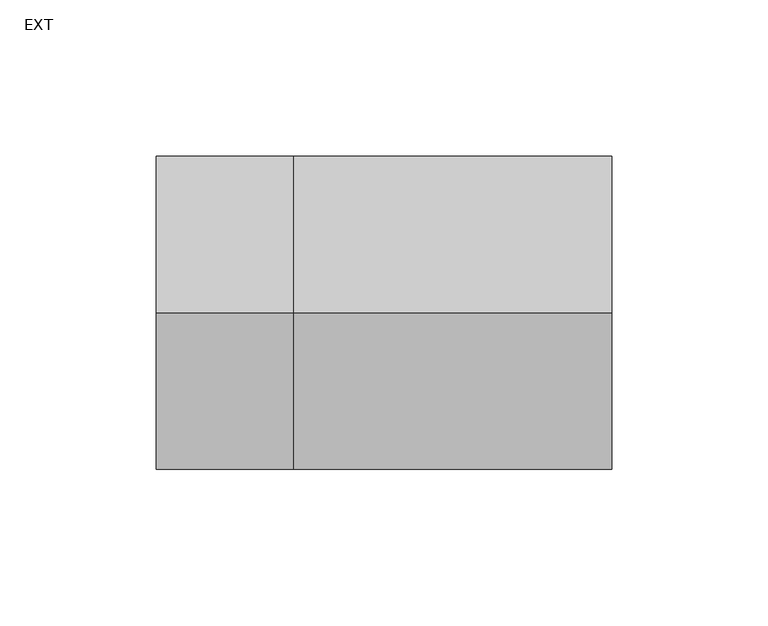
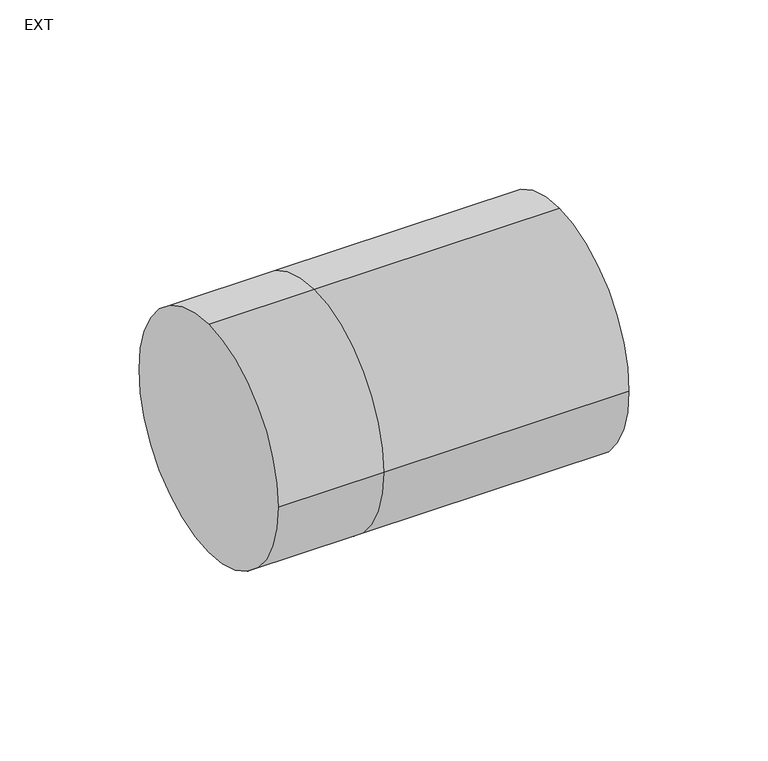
"""IFC4 building model written with IfcOpenShell, lengths in millimetres: duct fitting geometry, M_Toma de derivación redonda : EXT."""

from ifc_helpers import new_model, si_unit, frame, origin, place, context, project, spatial, circle_curve, source, transform, mapped, element, save
from ifc_brep_helpers import plane_surface, cylinder_surface, advanced_brep


def ext_110b8343(model_context):
    return source(origin(), model_context, "Body", "AdvancedBrep", [
        advanced_brep(
        [(101.6, 0.0, 50.0), (101.6, -50.0, 0.0), (101.6, 0.0, -50.0), (101.6, 50.0, 0.0), (0.0, 50.0, 0.0), (0.0, 0.0, 50.0), (0.0, 0.0, -50.0), (0.0, -50.0, 0.0), (-43.904, 0.0, 50.0), (-43.904, 50.0, 0.0), (-43.904, 0.0, -50.0), (-43.904, -50.0, 0.0)],
        [
            (0, 1, circle_curve(frame((101.6, 0.0, 0.0), z_axis=(1.0, 0.0, 0.0), x_axis=(0.0, 1.0, 0.0)), 50.0)),
            (1, 2, circle_curve(frame((101.6, 0.0, 0.0), z_axis=(1.0, 0.0, 0.0), x_axis=(0.0, 1.0, 0.0)), 50.0)),
            (2, 3, circle_curve(frame((101.6, 0.0, 0.0), z_axis=(1.0, 0.0, 0.0), x_axis=(0.0, 1.0, 0.0)), 50.0)),
            (3, 0, circle_curve(frame((101.6, 0.0, 0.0), z_axis=(1.0, 0.0, 0.0), x_axis=(0.0, 1.0, 0.0)), 50.0)),
            (3, 4),
            (4, 5, circle_curve(frame((0.0, 0.0, 0.0), z_axis=(1.0, 0.0, 0.0), x_axis=(0.0, 1.0, 0.0)), 50.0)),
            (5, 0),
            (2, 6),
            (6, 4, circle_curve(frame((0.0, 0.0, 0.0), z_axis=(1.0, 0.0, 0.0), x_axis=(0.0, 1.0, 0.0)), 50.0)),
            (1, 7),
            (7, 6, circle_curve(frame((0.0, 0.0, 0.0), z_axis=(1.0, 0.0, 0.0), x_axis=(0.0, 1.0, 0.0)), 50.0)),
            (5, 7, circle_curve(frame((0.0, 0.0, 0.0), z_axis=(1.0, 0.0, 0.0), x_axis=(0.0, 1.0, 0.0)), 50.0)),
            (8, 9, circle_curve(frame((-43.904, 0.0, 0.0), z_axis=(-1.0, 0.0, 0.0), x_axis=(0.0, 1.0, 0.0)), 50.0)),
            (9, 10, circle_curve(frame((-43.904, 0.0, 0.0), z_axis=(-1.0, 0.0, 0.0), x_axis=(0.0, 1.0, 0.0)), 50.0)),
            (10, 11, circle_curve(frame((-43.904, 0.0, 0.0), z_axis=(-1.0, 0.0, 0.0), x_axis=(0.0, 1.0, 0.0)), 50.0)),
            (11, 8, circle_curve(frame((-43.904, 0.0, 0.0), z_axis=(-1.0, 0.0, 0.0), x_axis=(0.0, 1.0, 0.0)), 50.0)),
            (8, 5),
            (4, 9),
            (6, 10),
            (7, 11),
        ],
        [
            plane_surface(frame((101.6, 0.0, 0.0), z_axis=(1.0, 0.0, 0.0), x_axis=(0.0, 0.0, 1.0))),
            cylinder_surface(frame((0.0, 0.0, 0.0), z_axis=(-1.0, 0.0, 0.0), x_axis=(0.0, 1.0, 0.0)), 50.0),
            plane_surface(frame((-43.904, 0.0, 0.0), z_axis=(-1.0, 0.0, 0.0), x_axis=(0.0, 0.0, 1.0))),
            cylinder_surface(frame((-43.904, 0.0, 0.0), z_axis=(-1.0, 0.0, 0.0), x_axis=(0.0, 1.0, 0.0)), 50.0),
        ],
        [
            (0, [[1, 2, 3, 4]]),
            (1, [[-4, 5, 6, 7]]),
            (1, [[-3, 8, 9, -5]]),
            (1, [[-2, 10, 11, -8]]),
            (1, [[-1, -7, 12, -10]]),
            (2, [[13, 14, 15, 16]]),
            (3, [[-13, 17, -6, 18]]),
            (3, [[-14, -18, -9, 19]]),
            (3, [[-15, -19, -11, 20]]),
            (3, [[-16, -20, -12, -17]]),
        ],
    ),
    ])


if __name__ == "__main__":
    model = new_model("IFC4")
    model_context = context("Model", 3, world=origin())
    ifc_project = project(units=[si_unit("LENGTHUNIT", "METRE", prefix="MILLI")], contexts=[model_context])
    site = spatial("IfcSite", under=ifc_project)
    building = spatial("IfcBuilding", under=site)
    placement = place(None, origin())
    ext_shape = ext_110b8343(model_context)
    element("IfcDuctFitting", 1, ObjectType="M_Toma de derivación redonda : EXT", at=placement, inside=building, context=model_context, shape_type="MappedRepresentation", body=[
        mapped(ext_shape, transform((0.0, 0.0, 0.0), x_axis=(1.0, 0.0, 0.0), y_axis=(0.0, 1.0, 0.0), z_axis=(0.0, 0.0, 1.0))),
    ])
    save(model, "model.ifc")
